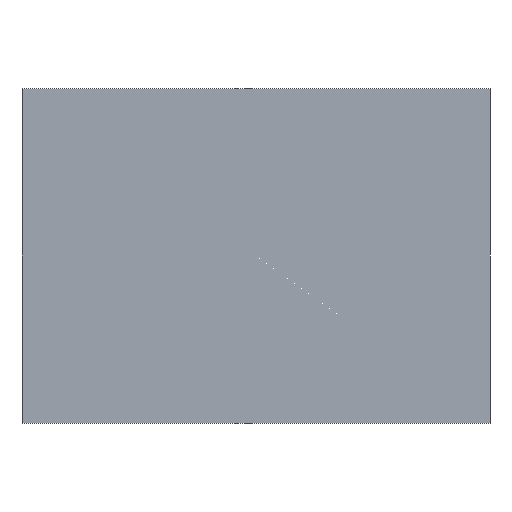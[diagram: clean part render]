
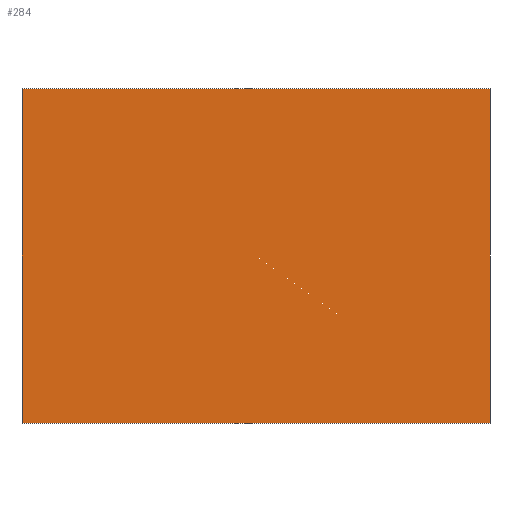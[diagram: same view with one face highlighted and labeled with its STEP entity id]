
A CAD part, left-side view. The second image highlights one B-rep face of the part: STEP entity #284.
In plain terms, the highlighted planar face has unit normal (-1, 0, 0).
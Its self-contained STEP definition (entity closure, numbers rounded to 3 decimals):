
#32 = PLANE('',#33);
#33 = AXIS2_PLACEMENT_3D('',#34,#35,#36);
#34 = CARTESIAN_POINT('',(9.525,-37.55,1.3));
#35 = DIRECTION('',(0.,1.,0.));
#36 = DIRECTION('',(0.,0.,1.));
#57 = VERTEX_POINT('',#58);
#58 = CARTESIAN_POINT('',(6.725,-37.55,1.3));
#72 = PLANE('',#73);
#73 = AXIS2_PLACEMENT_3D('',#74,#75,#76);
#74 = CARTESIAN_POINT('',(9.525,-37.55,1.3));
#75 = DIRECTION('',(0.,0.,1.));
#76 = DIRECTION('',(0.,1.,0.));
#84 = EDGE_CURVE('',#57,#85,#87,.T.);
#85 = VERTEX_POINT('',#86);
#86 = CARTESIAN_POINT('',(6.725,-37.55,6.3));
#87 = SURFACE_CURVE('',#88,(#92,#99),.PCURVE_S1.);
#88 = LINE('',#89,#90);
#89 = CARTESIAN_POINT('',(6.725,-37.55,1.3));
#90 = VECTOR('',#91,1.);
#91 = DIRECTION('',(0.,0.,1.));
#92 = PCURVE('',#32,#93);
#93 = DEFINITIONAL_REPRESENTATION('',(#94),#98);
#94 = LINE('',#95,#96);
#95 = CARTESIAN_POINT('',(0.,-2.8));
#96 = VECTOR('',#97,1.);
#97 = DIRECTION('',(1.,0.));
#98 = ( GEOMETRIC_REPRESENTATION_CONTEXT(2) 
PARAMETRIC_REPRESENTATION_CONTEXT() REPRESENTATION_CONTEXT('2D SPACE',''
  ) );
#99 = PCURVE('',#100,#105);
#100 = PLANE('',#101);
#101 = AXIS2_PLACEMENT_3D('',#102,#103,#104);
#102 = CARTESIAN_POINT('',(6.725,-37.55,1.3));
#103 = DIRECTION('',(-1.,0.,0.));
#104 = DIRECTION('',(0.,0.,1.));
#105 = DEFINITIONAL_REPRESENTATION('',(#106),#110);
#106 = LINE('',#107,#108);
#107 = CARTESIAN_POINT('',(0.,0.));
#108 = VECTOR('',#109,1.);
#109 = DIRECTION('',(1.,0.));
#110 = ( GEOMETRIC_REPRESENTATION_CONTEXT(2) 
PARAMETRIC_REPRESENTATION_CONTEXT() REPRESENTATION_CONTEXT('2D SPACE',''
  ) );
#126 = PLANE('',#127);
#127 = AXIS2_PLACEMENT_3D('',#128,#129,#130);
#128 = CARTESIAN_POINT('',(9.525,-37.55,6.3));
#129 = DIRECTION('',(0.,0.,1.));
#130 = DIRECTION('',(0.,1.,0.));
#152 = PLANE('',#153);
#153 = AXIS2_PLACEMENT_3D('',#154,#155,#156);
#154 = CARTESIAN_POINT('',(9.525,-30.55,1.3));
#155 = DIRECTION('',(0.,1.,0.));
#156 = DIRECTION('',(0.,0.,1.));
#172 = VERTEX_POINT('',#173);
#173 = CARTESIAN_POINT('',(6.725,-30.55,1.3));
#194 = EDGE_CURVE('',#172,#195,#197,.T.);
#195 = VERTEX_POINT('',#196);
#196 = CARTESIAN_POINT('',(6.725,-30.55,6.3));
#197 = SURFACE_CURVE('',#198,(#202,#209),.PCURVE_S1.);
#198 = LINE('',#199,#200);
#199 = CARTESIAN_POINT('',(6.725,-30.55,1.3));
#200 = VECTOR('',#201,1.);
#201 = DIRECTION('',(0.,0.,1.));
#202 = PCURVE('',#152,#203);
#203 = DEFINITIONAL_REPRESENTATION('',(#204),#208);
#204 = LINE('',#205,#206);
#205 = CARTESIAN_POINT('',(0.,-2.8));
#206 = VECTOR('',#207,1.);
#207 = DIRECTION('',(1.,0.));
#208 = ( GEOMETRIC_REPRESENTATION_CONTEXT(2) 
PARAMETRIC_REPRESENTATION_CONTEXT() REPRESENTATION_CONTEXT('2D SPACE',''
  ) );
#209 = PCURVE('',#100,#210);
#210 = DEFINITIONAL_REPRESENTATION('',(#211),#215);
#211 = LINE('',#212,#213);
#212 = CARTESIAN_POINT('',(0.,7.));
#213 = VECTOR('',#214,1.);
#214 = DIRECTION('',(1.,0.));
#215 = ( GEOMETRIC_REPRESENTATION_CONTEXT(2) 
PARAMETRIC_REPRESENTATION_CONTEXT() REPRESENTATION_CONTEXT('2D SPACE',''
  ) );
#284 = ADVANCED_FACE('',(#285),#100,.T.);
#285 = FACE_BOUND('',#286,.T.);
#286 = EDGE_LOOP('',(#287,#308,#309,#330));
#287 = ORIENTED_EDGE('',*,*,#288,.F.);
#288 = EDGE_CURVE('',#57,#172,#289,.T.);
#289 = SURFACE_CURVE('',#290,(#294,#301),.PCURVE_S1.);
#290 = LINE('',#291,#292);
#291 = CARTESIAN_POINT('',(6.725,-37.55,1.3));
#292 = VECTOR('',#293,1.);
#293 = DIRECTION('',(0.,1.,0.));
#294 = PCURVE('',#100,#295);
#295 = DEFINITIONAL_REPRESENTATION('',(#296),#300);
#296 = LINE('',#297,#298);
#297 = CARTESIAN_POINT('',(0.,0.));
#298 = VECTOR('',#299,1.);
#299 = DIRECTION('',(0.,1.));
#300 = ( GEOMETRIC_REPRESENTATION_CONTEXT(2) 
PARAMETRIC_REPRESENTATION_CONTEXT() REPRESENTATION_CONTEXT('2D SPACE',''
  ) );
#301 = PCURVE('',#72,#302);
#302 = DEFINITIONAL_REPRESENTATION('',(#303),#307);
#303 = LINE('',#304,#305);
#304 = CARTESIAN_POINT('',(0.,2.8));
#305 = VECTOR('',#306,1.);
#306 = DIRECTION('',(1.,0.));
#307 = ( GEOMETRIC_REPRESENTATION_CONTEXT(2) 
PARAMETRIC_REPRESENTATION_CONTEXT() REPRESENTATION_CONTEXT('2D SPACE',''
  ) );
#308 = ORIENTED_EDGE('',*,*,#84,.T.);
#309 = ORIENTED_EDGE('',*,*,#310,.T.);
#310 = EDGE_CURVE('',#85,#195,#311,.T.);
#311 = SURFACE_CURVE('',#312,(#316,#323),.PCURVE_S1.);
#312 = LINE('',#313,#314);
#313 = CARTESIAN_POINT('',(6.725,-37.55,6.3));
#314 = VECTOR('',#315,1.);
#315 = DIRECTION('',(0.,1.,0.));
#316 = PCURVE('',#100,#317);
#317 = DEFINITIONAL_REPRESENTATION('',(#318),#322);
#318 = LINE('',#319,#320);
#319 = CARTESIAN_POINT('',(5.,0.));
#320 = VECTOR('',#321,1.);
#321 = DIRECTION('',(0.,1.));
#322 = ( GEOMETRIC_REPRESENTATION_CONTEXT(2) 
PARAMETRIC_REPRESENTATION_CONTEXT() REPRESENTATION_CONTEXT('2D SPACE',''
  ) );
#323 = PCURVE('',#126,#324);
#324 = DEFINITIONAL_REPRESENTATION('',(#325),#329);
#325 = LINE('',#326,#327);
#326 = CARTESIAN_POINT('',(0.,2.8));
#327 = VECTOR('',#328,1.);
#328 = DIRECTION('',(1.,0.));
#329 = ( GEOMETRIC_REPRESENTATION_CONTEXT(2) 
PARAMETRIC_REPRESENTATION_CONTEXT() REPRESENTATION_CONTEXT('2D SPACE',''
  ) );
#330 = ORIENTED_EDGE('',*,*,#194,.F.);
